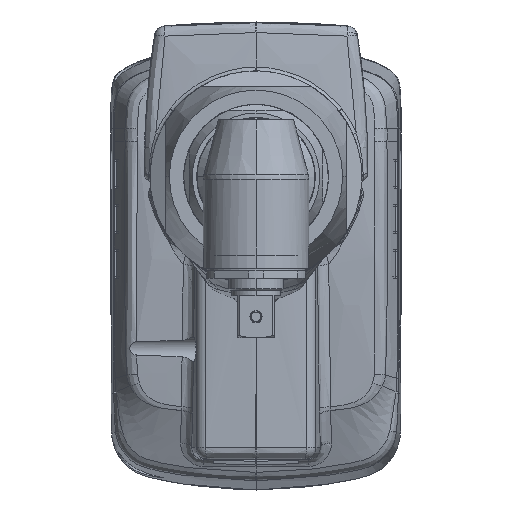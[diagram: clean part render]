
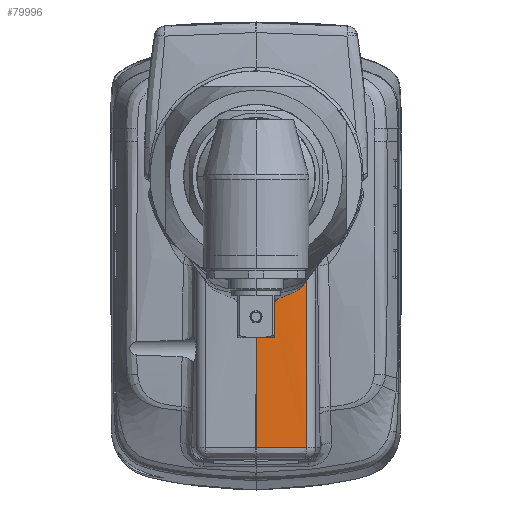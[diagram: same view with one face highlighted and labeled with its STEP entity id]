
A CAD part, front view. The second image highlights one B-rep face of the part: STEP entity #79996.
In plain terms, the highlighted free-form (B-spline) face has degree [3, 1] with [4, 2] control points.
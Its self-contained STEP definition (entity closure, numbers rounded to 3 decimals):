
#325 = CARTESIAN_POINT ( 'NONE',  ( 0., 266.07, -18.403 ) ) ;
#643 = CARTESIAN_POINT ( 'NONE',  ( 12.836, 266.775, -18.705 ) ) ;
#2636 = CARTESIAN_POINT ( 'NONE',  ( 9.993, 266.459, -21.658 ) ) ;
#2984 = CARTESIAN_POINT ( 'NONE',  ( 4.402, 266.138, -24.753 ) ) ;
#6504 = DIRECTION ( 'NONE',  ( 0., 0., -1. ) ) ;
#7878 = EDGE_CURVE ( 'NONE', #52204, #26996, #101465, .T. ) ;
#8095 = CARTESIAN_POINT ( 'NONE',  ( 0., 266.07, -25.421 ) ) ;
#8542 = ORIENTED_EDGE ( 'NONE', *, *, #32868, .F. ) ;
#10195 = CARTESIAN_POINT ( 'NONE',  ( 8.582, 266.348, -22.72 ) ) ;
#12857 = CARTESIAN_POINT ( 'NONE',  ( 10.318, 266.488, -21.381 ) ) ;
#14537 = CARTESIAN_POINT ( 'NONE',  ( 5.27, 266.169, -24.445 ) ) ;
#15040 = CARTESIAN_POINT ( 'NONE',  ( 0., 266.07, -69. ) ) ;
#15195 = CARTESIAN_POINT ( 'NONE',  ( 3.525, 266.113, -24.997 ) ) ;
#15594 = ORIENTED_EDGE ( 'NONE', *, *, #7878, .F. ) ;
#16191 = CARTESIAN_POINT ( 'NONE',  ( 7.769, 266.294, -23.236 ) ) ;
#18039 = VECTOR ( 'NONE', #6504, 1000. ) ;
#20395 = CARTESIAN_POINT ( 'NONE',  ( 9.752, 266.438, -21.855 ) ) ;
#21056 = CARTESIAN_POINT ( 'NONE',  ( 12.035, 266.67, -19.672 ) ) ;
#23221 = CARTESIAN_POINT ( 'NONE',  ( 9.616, 266.321, -69. ) ) ;
#23746 = CARTESIAN_POINT ( 'NONE',  ( 7.821, 266.297, -23.204 ) ) ;
#25741 = CARTESIAN_POINT ( 'NONE',  ( 7.758, 266.294, -23.242 ) ) ;
#26996 = VERTEX_POINT ( 'NONE', #89451 ) ;
#31592 = CARTESIAN_POINT ( 'NONE',  ( 12.836, 266.775, -69. ) ) ;
#31912 = CARTESIAN_POINT ( 'NONE',  ( 9.805, 266.442, -21.813 ) ) ;
#32868 = EDGE_CURVE ( 'NONE', #107549, #124329, #78687, .T. ) ;
#33929 = CARTESIAN_POINT ( 'NONE',  ( 9.76, 266.439, -21.849 ) ) ;
#36794 = B_SPLINE_CURVE_WITH_KNOTS ( 'NONE', 3,
 ( #643, #85706, #125199, #21056, #73482, #53684, #95254, #63244, #42796, #126537, #62580, #84354, #104112, #74824, #114988, #116335, #12857, #54363, #2636, #124547, #31912, #44140, #33929, #20395, #61917, #103454, #10195, #134762, #41474, #83035, #23746, #55704, #16191, #25741, #87048, #108140, #127882, #128563 ),
 .UNSPECIFIED., .F., .F.,
 ( 4, 2, 2, 1, 1, 1, 1, 2, 2, 2, 2, 1, 1, 1, 2, 2, 2, 1, 1, 1, 1, 1, 2, 2, 4 ),
 ( 0., 0.125, 0.187, 0.219, 0.234, 0.242, 0.246, 0.248, 0.25, 0.375, 0.437, 0.469, 0.484, 0.492, 0.496, 0.5, 0.625, 0.687, 0.719, 0.734, 0.742, 0.746, 0.748, 0.75, 1. ),
 .UNSPECIFIED. ) ;
#37632 = CARTESIAN_POINT ( 'NONE',  ( 12.836, 266.775, -69. ) ) ;
#39086 = ORIENTED_EDGE ( 'NONE', *, *, #106532, .T. ) ;
#39098 = VERTEX_POINT ( 'NONE', #65095 ) ;
#41474 = CARTESIAN_POINT ( 'NONE',  ( 8.04, 266.311, -23.071 ) ) ;
#42796 = CARTESIAN_POINT ( 'NONE',  ( 11.521, 266.61, -20.229 ) ) ;
#43125 = CARTESIAN_POINT ( 'NONE',  ( 3.083, 266.102, -25.099 ) ) ;
#44140 = CARTESIAN_POINT ( 'NONE',  ( 9.778, 266.44, -21.834 ) ) ;
#49595 = CARTESIAN_POINT ( 'NONE',  ( 0., 266.07, -54.474 ) ) ;
#52204 = VERTEX_POINT ( 'NONE', #116081 ) ;
#53684 = CARTESIAN_POINT ( 'NONE',  ( 11.752, 266.636, -19.984 ) ) ;
#54019 =( BOUNDED_SURFACE ( )  B_SPLINE_SURFACE ( 3, 1, ( 
 ( #325, #15040 ),
 ( #56555, #125540 ),
 ( #98116, #115333 ),
 ( #83368, #31592 ) ),
 .UNSPECIFIED., .F., .F., .F. ) 
 B_SPLINE_SURFACE_WITH_KNOTS ( ( 4, 4 ),
 ( 2, 2 ),
 ( 0., 1. ),
 ( 0., 1. ),
 .UNSPECIFIED. ) 
 GEOMETRIC_REPRESENTATION_ITEM ( )  RATIONAL_B_SPLINE_SURFACE ( (
 ( 1., 1.),
 ( 0.937, 0.937),
 ( 0.937, 0.937),
 ( 1., 1.) ) ) 
 REPRESENTATION_ITEM ( '' )  SURFACE ( )  );
#54363 = CARTESIAN_POINT ( 'NONE',  ( 10.101, 266.468, -21.567 ) ) ;
#55371 = CARTESIAN_POINT ( 'NONE',  ( 4.838, 266.153, -24.609 ) ) ;
#55605 = EDGE_CURVE ( 'NONE', #107549, #39098, #36794, .T. ) ;
#55704 = CARTESIAN_POINT ( 'NONE',  ( 7.784, 266.295, -23.226 ) ) ;
#56555 = CARTESIAN_POINT ( 'NONE',  ( 5.048, 266.07, -18.403 ) ) ;
#56708 = CARTESIAN_POINT ( 'NONE',  ( 0., 266.07, -25.421 ) ) ;
#58103 = EDGE_LOOP ( 'NONE', ( #15594, #39086, #8542, #111128, #68218 ) ) ;
#61917 = CARTESIAN_POINT ( 'NONE',  ( 9.413, 266.409, -22.127 ) ) ;
#62580 = CARTESIAN_POINT ( 'NONE',  ( 11.486, 266.606, -20.266 ) ) ;
#63244 = CARTESIAN_POINT ( 'NONE',  ( 11.57, 266.615, -20.178 ) ) ;
#65095 = CARTESIAN_POINT ( 'NONE',  ( 5.27, 266.169, -24.445 ) ) ;
#65620 = CARTESIAN_POINT ( 'NONE',  ( 0.882, 266.07, -25.421 ) ) ;
#66005 = CARTESIAN_POINT ( 'NONE',  ( 12.836, 266.775, -18.705 ) ) ;
#68218 = ORIENTED_EDGE ( 'NONE', *, *, #123411, .T. ) ;
#70728 = CARTESIAN_POINT ( 'NONE',  ( 0., 266.07, -39.947 ) ) ;
#73482 = CARTESIAN_POINT ( 'NONE',  ( 11.922, 266.656, -19.799 ) ) ;
#74297 = CARTESIAN_POINT ( 'NONE',  ( 0., 266.07, -69. ) ) ;
#74824 = CARTESIAN_POINT ( 'NONE',  ( 11.186, 266.573, -20.577 ) ) ;
#76321 = CARTESIAN_POINT ( 'NONE',  ( 12.836, 266.775, -69. ) ) ;
#78687 = LINE ( 'NONE', #120189, #18039 ) ;
#79996 = ADVANCED_FACE ( 'NONE', ( #118517 ), #54019, .F. ) ;
#83035 = CARTESIAN_POINT ( 'NONE',  ( 7.894, 266.302, -23.16 ) ) ;
#83368 = CARTESIAN_POINT ( 'NONE',  ( 12.836, 266.775, -18.403 ) ) ;
#84354 = CARTESIAN_POINT ( 'NONE',  ( 11.479, 266.605, -20.273 ) ) ;
#85706 = CARTESIAN_POINT ( 'NONE',  ( 12.608, 266.743, -18.999 ) ) ;
#87048 = CARTESIAN_POINT ( 'NONE',  ( 7.754, 266.293, -23.244 ) ) ;
#89451 = CARTESIAN_POINT ( 'NONE',  ( 0., 266.07, -25.421 ) ) ;
#91006 =( BOUNDED_CURVE ( )  B_SPLINE_CURVE ( 3, ( #74297, #96761, #23221, #76321 ),
 .UNSPECIFIED., .F., .F. ) 
 B_SPLINE_CURVE_WITH_KNOTS ( ( 4, 4 ),
 ( 0., 1. ),
 .UNSPECIFIED. ) 
 CURVE ( )  GEOMETRIC_REPRESENTATION_ITEM ( )  RATIONAL_B_SPLINE_CURVE ( ( 1., 0.937, 0.937, 1. ) ) 
 REPRESENTATION_ITEM ( '' )  );
#95254 = CARTESIAN_POINT ( 'NONE',  ( 11.668, 266.627, -20.075 ) ) ;
#96761 = CARTESIAN_POINT ( 'NONE',  ( 5.048, 266.07, -69. ) ) ;
#98116 = CARTESIAN_POINT ( 'NONE',  ( 9.616, 266.321, -18.403 ) ) ;
#101465 = B_SPLINE_CURVE_WITH_KNOTS ( 'NONE', 3,
 ( #131321, #49595, #70728, #8095 ),
 .UNSPECIFIED., .F., .F.,
 ( 4, 4 ),
 ( 0., 1. ),
 .UNSPECIFIED. ) ;
#103454 = CARTESIAN_POINT ( 'NONE',  ( 9.082, 266.384, -22.374 ) ) ;
#104112 = CARTESIAN_POINT ( 'NONE',  ( 11.477, 266.605, -20.275 ) ) ;
#106532 = EDGE_CURVE ( 'NONE', #52204, #124329, #91006, .T. ) ;
#107549 = VERTEX_POINT ( 'NONE', #66005 ) ;
#107818 = CARTESIAN_POINT ( 'NONE',  ( 1.77, 266.078, -25.34 ) ) ;
#108140 = CARTESIAN_POINT ( 'NONE',  ( 6.936, 266.243, -23.73 ) ) ;
#111128 = ORIENTED_EDGE ( 'NONE', *, *, #55605, .T. ) ;
#114988 = CARTESIAN_POINT ( 'NONE',  ( 10.897, 266.543, -20.858 ) ) ;
#115333 = CARTESIAN_POINT ( 'NONE',  ( 9.616, 266.321, -69. ) ) ;
#116081 = CARTESIAN_POINT ( 'NONE',  ( 0., 266.07, -69. ) ) ;
#116335 = CARTESIAN_POINT ( 'NONE',  ( 10.463, 266.501, -21.254 ) ) ;
#118517 = FACE_OUTER_BOUND ( 'NONE', #58103, .T. ) ;
#118601 = B_SPLINE_CURVE_WITH_KNOTS ( 'NONE', 3,
 ( #14537, #55371, #2984, #15195, #43125, #107818, #65620, #56708 ),
 .UNSPECIFIED., .F., .F.,
 ( 4, 2, 2, 4 ),
 ( 0., 0.25, 0.5, 1. ),
 .UNSPECIFIED. ) ;
#120189 = CARTESIAN_POINT ( 'NONE',  ( 12.836, 266.775, -18.705 ) ) ;
#123411 = EDGE_CURVE ( 'NONE', #39098, #26996, #118601, .T. ) ;
#124329 = VERTEX_POINT ( 'NONE', #37632 ) ;
#124547 = CARTESIAN_POINT ( 'NONE',  ( 9.867, 266.448, -21.761 ) ) ;
#125199 = CARTESIAN_POINT ( 'NONE',  ( 12.378, 266.713, -19.278 ) ) ;
#125540 = CARTESIAN_POINT ( 'NONE',  ( 5.048, 266.07, -69. ) ) ;
#126537 = CARTESIAN_POINT ( 'NONE',  ( 11.497, 266.607, -20.255 ) ) ;
#127882 = CARTESIAN_POINT ( 'NONE',  ( 6.103, 266.202, -24.129 ) ) ;
#128563 = CARTESIAN_POINT ( 'NONE',  ( 5.27, 266.169, -24.445 ) ) ;
#131321 = CARTESIAN_POINT ( 'NONE',  ( 0., 266.07, -69. ) ) ;
#134762 = CARTESIAN_POINT ( 'NONE',  ( 8.332, 266.33, -22.887 ) ) ;
